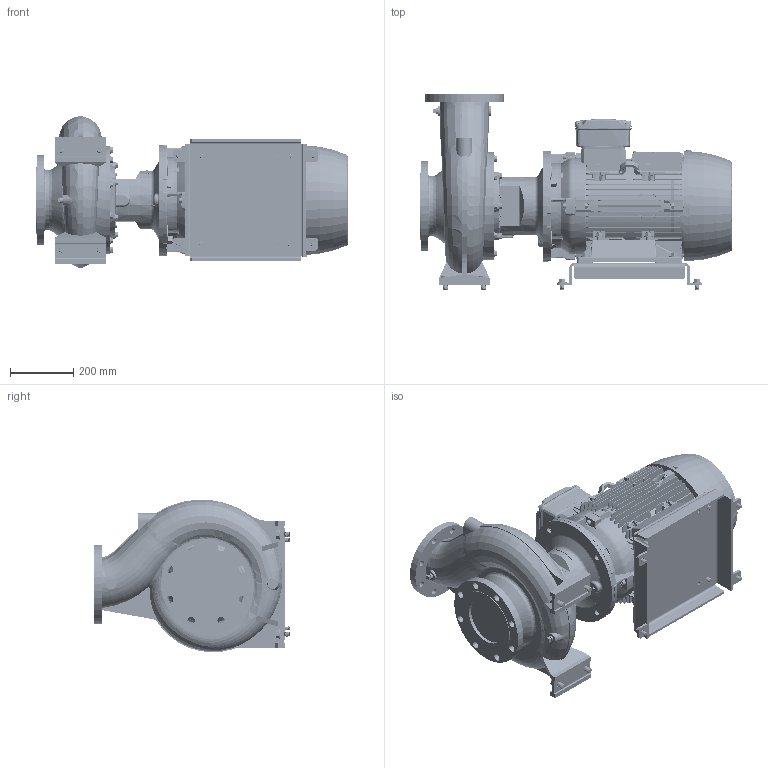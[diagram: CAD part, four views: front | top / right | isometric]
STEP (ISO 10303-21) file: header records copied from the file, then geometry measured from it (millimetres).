
FILE_DESCRIPTION (( 'STEP AP214' ), '1' );
FILE_NAME ('GSD4 125-250_18.5 & 22_(180ML)_W21.STEP', '2026-07-01T05:10:39', ( '' ), ( '' ), 'SwSTEP 2.0', 'SolidWorks 2024', '' );
FILE_SCHEMA (( 'AUTOMOTIVE_DESIGN' ));
Length unit declared in the file: millimetre
Products named in the file (12): GSD4 125-250_18.5 & 22_(180ML)_W21; Parametric bolt and washer_SFT-A353B; 180M_L ALIE3_W21T_B35; Parametric Flat Washer_M16; 125-250-180M_L_ﾃﾞﾌｫﾙﾄ; CGS11-5263; Parametric Flat Washer_M12; Parametric bolt and washer_SFT-A297B; Parametric bolt and washer_SFT-A305B; Parametric bolt_SFT-A297B; Parametric bolt_SFT-A305B; Parametric bolt_SFT-A353B
Assembly tree (21 placements, depth 3):
  GSD4 125-250_18.5 & 22_(180ML)_W21
    125-250-180M_L_ﾃﾞﾌｫﾙﾄ
    CGS11-5263
    Parametric bolt and washer_SFT-A353B  x4
      Parametric bolt_SFT-A353B
      Parametric Flat Washer_M16
    Parametric bolt and washer_SFT-A297B  x4
      Parametric bolt_SFT-A297B
      Parametric Flat Washer_M12
    Parametric bolt and washer_SFT-A305B  x4
      Parametric bolt_SFT-A305B
      Parametric Flat Washer_M12
    180M_L ALIE3_W21T_B35
Bounding box: 984.8 x 621 x 481.27 mm (x, y, z)
Volume: 80831360.8 mm3; surface area: 4207573.5 mm2
Topology: 59 solids, 59 shells, 6689 faces, 17342 edges, 11219 vertices
Faces by surface type: plane 3938, cylinder 1339, cone 663, bspline 462, torus 271, sphere 16
Entity records: 256941 total; most frequent: CARTESIAN_POINT 113074, ORIENTED_EDGE 31674, DIRECTION 26713, EDGE_CURVE 15837, VERTEX_POINT 10250, VECTOR 9893, LINE 9893, AXIS2_PLACEMENT_3D 8410
